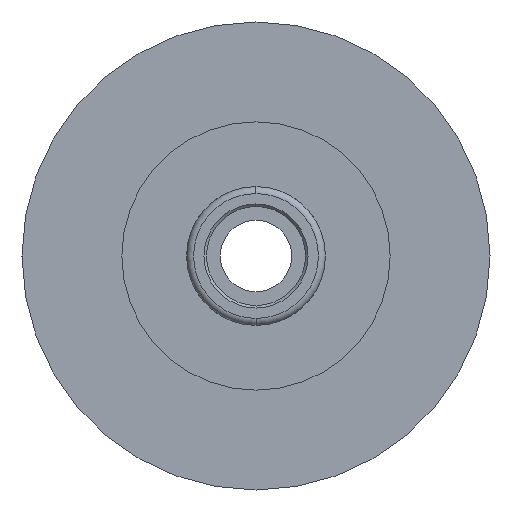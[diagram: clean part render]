
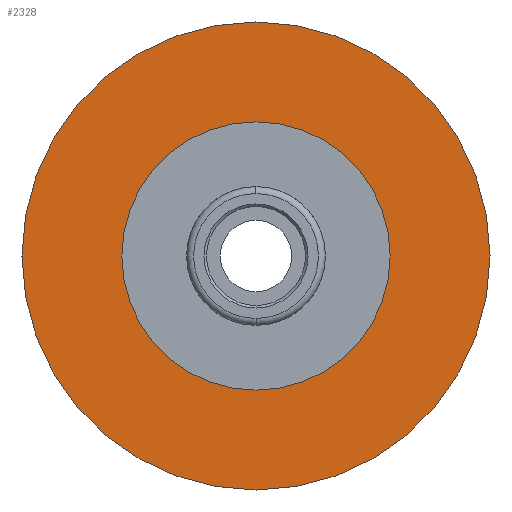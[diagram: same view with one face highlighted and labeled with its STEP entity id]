
A CAD part, left-side view. The second image highlights one B-rep face of the part: STEP entity #2328.
In plain terms, the highlighted planar face has unit normal (-1, 0, 0).
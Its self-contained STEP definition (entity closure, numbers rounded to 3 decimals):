
#1952=CARTESIAN_POINT('',(0.0,8.6,0.0));
#1953=VERTEX_POINT('',#1952);
#1962=CARTESIAN_POINT('',(0.0,-8.6,0.));
#1963=VERTEX_POINT('',#1962);
#1964=CARTESIAN_POINT('',(0.0,0.0,0.0));
#1965=DIRECTION('',(1.0,0.0,0.0));
#1966=DIRECTION('',(0.0,1.0,0.0));
#1967=AXIS2_PLACEMENT_3D('',#1964,#1965,#1966);
#1968=CIRCLE('',#1967,8.6);
#1969=EDGE_CURVE('',#1963,#1953,#1968,.T.);
#2139=CARTESIAN_POINT('',(0.0,15.0,0.0));
#2140=VERTEX_POINT('',#2139);
#2147=CARTESIAN_POINT('',(0.0,-15.,0.));
#2148=VERTEX_POINT('',#2147);
#2149=CARTESIAN_POINT('',(0.0,0.0,0.0));
#2150=DIRECTION('',(1.0,0.0,0.0));
#2151=DIRECTION('',(0.0,1.0,0.0));
#2152=AXIS2_PLACEMENT_3D('',#2149,#2150,#2151);
#2153=CIRCLE('',#2152,15.);
#2154=EDGE_CURVE('',#2140,#2148,#2153,.T.);
#2190=CARTESIAN_POINT('',(0.0,0.0,0.0));
#2191=DIRECTION('',(1.0,0.0,0.0));
#2192=DIRECTION('',(0.0,1.0,0.0));
#2193=AXIS2_PLACEMENT_3D('',#2190,#2191,#2192);
#2194=CIRCLE('',#2193,15.);
#2195=EDGE_CURVE('',#2148,#2140,#2194,.T.);
#2305=CARTESIAN_POINT('',(0.0,0.0,0.0));
#2306=DIRECTION('',(1.0,0.0,0.0));
#2307=DIRECTION('',(0.0,1.0,0.0));
#2308=AXIS2_PLACEMENT_3D('',#2305,#2306,#2307);
#2309=CIRCLE('',#2308,8.6);
#2310=EDGE_CURVE('',#1953,#1963,#2309,.T.);
#2315=CARTESIAN_POINT('',(0.0,11.8,0.0));
#2316=DIRECTION('',(-1.0,0.0,0.0));
#2317=DIRECTION('',(0.0,0.0,1.0));
#2318=AXIS2_PLACEMENT_3D('',#2315,#2316,#2317);
#2319=PLANE('',#2318);
#2320=ORIENTED_EDGE('',*,*,#2154,.F.);
#2321=ORIENTED_EDGE('',*,*,#2195,.F.);
#2322=EDGE_LOOP('',(#2320,#2321));
#2323=FACE_OUTER_BOUND('',#2322,.T.);
#2324=ORIENTED_EDGE('',*,*,#2310,.T.);
#2325=ORIENTED_EDGE('',*,*,#1969,.T.);
#2326=EDGE_LOOP('',(#2324,#2325));
#2327=FACE_BOUND('',#2326,.T.);
#2328=ADVANCED_FACE('',(#2323,#2327),#2319,.T.);
